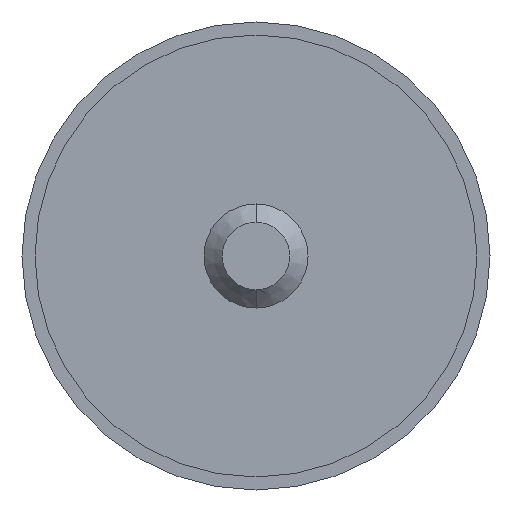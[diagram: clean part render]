
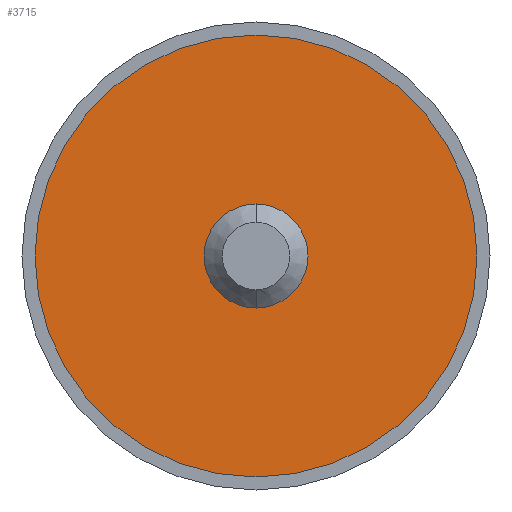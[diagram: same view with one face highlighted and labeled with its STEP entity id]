
A CAD part, front view. The second image highlights one B-rep face of the part: STEP entity #3715.
In plain terms, the highlighted planar face has unit normal (0, -1, 0).
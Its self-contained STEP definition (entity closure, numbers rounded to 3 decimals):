
#222 = CARTESIAN_POINT ( 'NONE',  ( 0., -1., 0. ) ) ;
#423 = EDGE_CURVE ( 'NONE', #3866, #694, #1056, .T. ) ;
#489 = AXIS2_PLACEMENT_3D ( 'NONE', #3796, #1651, #1979 ) ;
#634 = DIRECTION ( 'NONE',  ( 0., 0., 1. ) ) ;
#662 = DIRECTION ( 'NONE',  ( 0., 0., -1. ) ) ;
#694 = VERTEX_POINT ( 'NONE', #2354 ) ;
#699 = EDGE_LOOP ( 'NONE', ( #2837, #3347 ) ) ;
#834 = DIRECTION ( 'NONE',  ( 0., 0., 1. ) ) ;
#964 = DIRECTION ( 'NONE',  ( 0., 0., 1. ) ) ;
#1056 = CIRCLE ( 'NONE', #1551, 8.5 ) ;
#1084 = ORIENTED_EDGE ( 'NONE', *, *, #1295, .F. ) ;
#1295 = EDGE_CURVE ( 'NONE', #2666, #3662, #1548, .T. ) ;
#1302 = CARTESIAN_POINT ( 'NONE',  ( 0., -1., 8.5 ) ) ;
#1548 = CIRCLE ( 'NONE', #489, 2. ) ;
#1551 = AXIS2_PLACEMENT_3D ( 'NONE', #3069, #4191, #634 ) ;
#1570 = EDGE_CURVE ( 'NONE', #3662, #2666, #3986, .T. ) ;
#1651 = DIRECTION ( 'NONE',  ( 0., -1., 0. ) ) ;
#1789 = CARTESIAN_POINT ( 'NONE',  ( 0., -1., -2. ) ) ;
#1979 = DIRECTION ( 'NONE',  ( 0., 0., -1. ) ) ;
#2033 = EDGE_LOOP ( 'NONE', ( #2179, #1084 ) ) ;
#2101 = FACE_OUTER_BOUND ( 'NONE', #699, .T. ) ;
#2179 = ORIENTED_EDGE ( 'NONE', *, *, #1570, .F. ) ;
#2276 = CARTESIAN_POINT ( 'NONE',  ( 0., -1., 0. ) ) ;
#2354 = CARTESIAN_POINT ( 'NONE',  ( 0., -1., -8.5 ) ) ;
#2490 = CARTESIAN_POINT ( 'NONE',  ( 0., -1., 0. ) ) ;
#2666 = VERTEX_POINT ( 'NONE', #1789 ) ;
#2682 = CARTESIAN_POINT ( 'NONE',  ( 0., -1., 2. ) ) ;
#2837 = ORIENTED_EDGE ( 'NONE', *, *, #423, .F. ) ;
#2980 = AXIS2_PLACEMENT_3D ( 'NONE', #222, #3223, #964 ) ;
#3000 = PLANE ( 'NONE',  #4228 ) ;
#3054 = DIRECTION ( 'NONE',  ( 0., 1., 0. ) ) ;
#3069 = CARTESIAN_POINT ( 'NONE',  ( 0., -1., 0. ) ) ;
#3077 = AXIS2_PLACEMENT_3D ( 'NONE', #2490, #4348, #662 ) ;
#3223 = DIRECTION ( 'NONE',  ( 0., 1., 0. ) ) ;
#3347 = ORIENTED_EDGE ( 'NONE', *, *, #4650, .F. ) ;
#3627 = CIRCLE ( 'NONE', #2980, 8.5 ) ;
#3662 = VERTEX_POINT ( 'NONE', #2682 ) ;
#3715 = ADVANCED_FACE ( 'NONE', ( #4614, #2101 ), #3000, .F. ) ;
#3796 = CARTESIAN_POINT ( 'NONE',  ( 0., -1., 0. ) ) ;
#3866 = VERTEX_POINT ( 'NONE', #1302 ) ;
#3986 = CIRCLE ( 'NONE', #3077, 2. ) ;
#4191 = DIRECTION ( 'NONE',  ( 0., 1., 0. ) ) ;
#4228 = AXIS2_PLACEMENT_3D ( 'NONE', #2276, #3054, #834 ) ;
#4348 = DIRECTION ( 'NONE',  ( 0., -1., 0. ) ) ;
#4614 = FACE_BOUND ( 'NONE', #2033, .T. ) ;
#4650 = EDGE_CURVE ( 'NONE', #694, #3866, #3627, .T. ) ;
